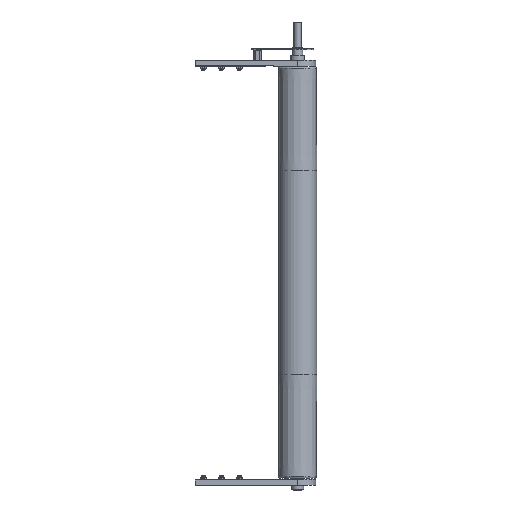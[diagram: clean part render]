
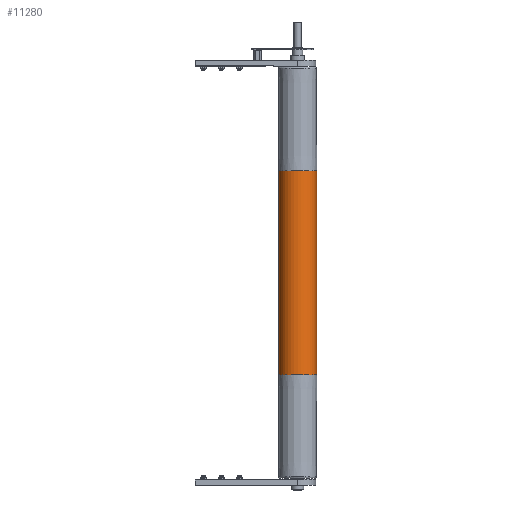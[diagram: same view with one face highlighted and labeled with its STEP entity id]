
A CAD part, front view. The second image highlights one B-rep face of the part: STEP entity #11280.
In plain terms, the highlighted cylindrical face has radius 47.5 mm (diameter 95 mm), a partial arc.
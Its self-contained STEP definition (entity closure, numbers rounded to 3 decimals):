
#630 = FACE_OUTER_BOUND ( 'NONE', #10423, .T. ) ;
#635 = CYLINDRICAL_SURFACE ( 'NONE', #8566, 47.5 ) ;
#2877 = EDGE_CURVE ( 'NONE', #29311, #11457, #14999, .T. ) ;
#2934 = EDGE_CURVE ( 'NONE', #24127, #11525, #15080, .T. ) ;
#5294 = EDGE_CURVE ( 'NONE', #11525, #11457, #12475, .T. ) ;
#5303 = EDGE_CURVE ( 'NONE', #24127, #29311, #12510, .T. ) ;
#8566 = AXIS2_PLACEMENT_3D ( 'NONE', #27444, #27443, #27440 ) ;
#10423 = EDGE_LOOP ( 'NONE', ( #14061, #13936, #13928, #13941 ) ) ;
#11280 = ADVANCED_FACE ( 'NONE', ( #630 ), #635, .T. ) ;
#11457 = VERTEX_POINT ( 'NONE', #27778 ) ;
#11525 = VERTEX_POINT ( 'NONE', #27846 ) ;
#12427 = CARTESIAN_POINT ( 'NONE',  ( 0., 0., -255. ) ) ;
#12429 = DIRECTION ( 'NONE',  ( 0., 0., 1. ) ) ;
#12430 = DIRECTION ( 'NONE',  ( 1., 0., 0. ) ) ;
#12475 = LINE ( 'NONE', #22695, #12488 ) ;
#12488 = VECTOR ( 'NONE', #22713, 1000. ) ;
#12510 = LINE ( 'NONE', #22731, #12513 ) ;
#12513 = VECTOR ( 'NONE', #22721, 1000. ) ;
#13928 = ORIENTED_EDGE ( 'NONE', *, *, #5303, .T. ) ;
#13936 = ORIENTED_EDGE ( 'NONE', *, *, #2934, .F. ) ;
#13941 = ORIENTED_EDGE ( 'NONE', *, *, #2877, .T. ) ;
#14061 = ORIENTED_EDGE ( 'NONE', *, *, #5294, .F. ) ;
#14999 = CIRCLE ( 'NONE', #17119, 47.5 ) ;
#15080 = CIRCLE ( 'NONE', #17145, 47.5 ) ;
#17119 = AXIS2_PLACEMENT_3D ( 'NONE', #12427, #12429, #12430 ) ;
#17145 = AXIS2_PLACEMENT_3D ( 'NONE', #31472, #31473, #31474 ) ;
#20510 = CARTESIAN_POINT ( 'NONE',  ( -47.5, 0., -255. ) ) ;
#22695 = CARTESIAN_POINT ( 'NONE',  ( 47.5, 0., 510. ) ) ;
#22713 = DIRECTION ( 'NONE',  ( 0., 0., -1. ) ) ;
#22721 = DIRECTION ( 'NONE',  ( 0., 0., -1. ) ) ;
#22731 = CARTESIAN_POINT ( 'NONE',  ( -47.5, 0., 510. ) ) ;
#24127 = VERTEX_POINT ( 'NONE', #30383 ) ;
#27440 = DIRECTION ( 'NONE',  ( -1., 0., 0. ) ) ;
#27443 = DIRECTION ( 'NONE',  ( 0., 0., -1. ) ) ;
#27444 = CARTESIAN_POINT ( 'NONE',  ( 0., 0., 510. ) ) ;
#27778 = CARTESIAN_POINT ( 'NONE',  ( 47.5, 0., -255. ) ) ;
#27846 = CARTESIAN_POINT ( 'NONE',  ( 47.5, 0., 255. ) ) ;
#29311 = VERTEX_POINT ( 'NONE', #20510 ) ;
#30383 = CARTESIAN_POINT ( 'NONE',  ( -47.5, 0., 255. ) ) ;
#31472 = CARTESIAN_POINT ( 'NONE',  ( 0., 0., 255. ) ) ;
#31473 = DIRECTION ( 'NONE',  ( 0., 0., 1. ) ) ;
#31474 = DIRECTION ( 'NONE',  ( 1., 0., 0. ) ) ;
